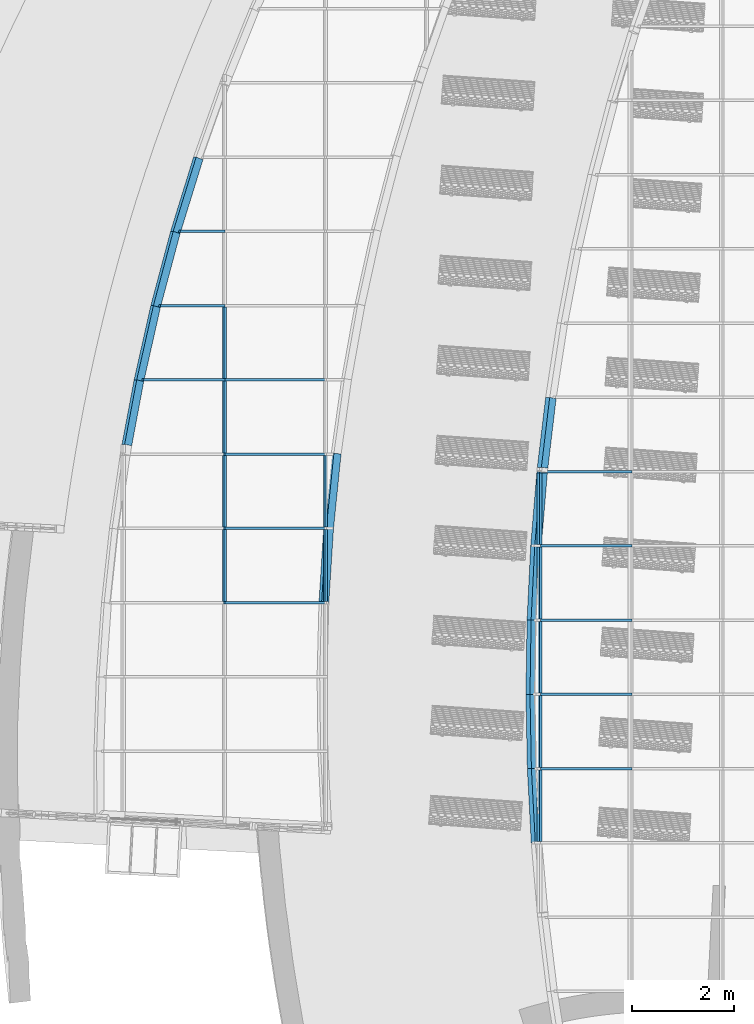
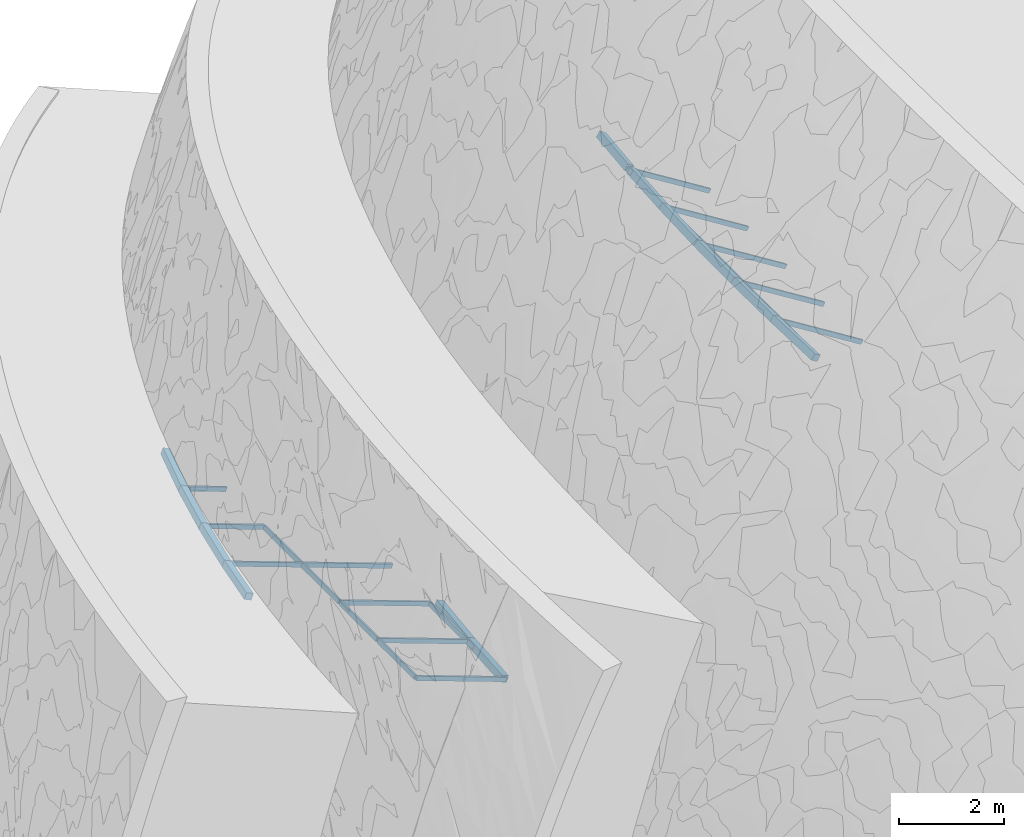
# One storey, part 11 of 82: 35 members, 2 elements without a shape of their own.
"""IFC2X3 building model written with IfcOpenShell, lengths in millimetres."""

from ifc_helpers import new_model, entity, si_unit, converted_unit, derived_unit, direction, frame, frame_2d, origin, origin_2d_with_axis, place, context, subcontext, project, spatial, rectangle, extrude, clip, halfspace, source, transform, mapped, material, type_object, type_shapes, element, aggregate, save


model = new_model("IFC2X3")

# Units and contexts
model_context = context("Model", 3, precision=0.01, world=origin(), true_north=direction((6.12303176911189e-17, 1.0)))
body_context = subcontext(model_context, "Body", "Model", "MODEL_VIEW")
ifc_project = project(units=[si_unit("LENGTHUNIT", "METRE", prefix="MILLI"), si_unit("AREAUNIT", "SQUARE_METRE"), si_unit("VOLUMEUNIT", "CUBIC_METRE"), converted_unit("PLANEANGLEUNIT", "DEGREE", entity("IfcRatioMeasure", 0.0174532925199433), si_unit("PLANEANGLEUNIT", "RADIAN"), dimensions=[0, 0, 0, 0, 0, 0, 0]), si_unit("MASSUNIT", "GRAM", prefix="KILO"), derived_unit("MASSDENSITYUNIT", [(si_unit("MASSUNIT", "GRAM", prefix="KILO"), 1), (si_unit("LENGTHUNIT", "METRE"), -3)]), si_unit("TIMEUNIT", "SECOND"), si_unit("FREQUENCYUNIT", "HERTZ"), si_unit("THERMODYNAMICTEMPERATUREUNIT", "DEGREE_CELSIUS"), derived_unit("THERMALTRANSMITTANCEUNIT", [(si_unit("MASSUNIT", "GRAM", prefix="KILO"), 1), (si_unit("THERMODYNAMICTEMPERATUREUNIT", "KELVIN"), -1), (si_unit("TIMEUNIT", "SECOND"), -3)]), derived_unit("VOLUMETRICFLOWRATEUNIT", [(si_unit("LENGTHUNIT", "METRE"), 3), (si_unit("TIMEUNIT", "SECOND"), -1)]), si_unit("ELECTRICCURRENTUNIT", "AMPERE"), si_unit("ELECTRICVOLTAGEUNIT", "VOLT"), si_unit("POWERUNIT", "WATT"), si_unit("FORCEUNIT", "NEWTON", prefix="KILO"), si_unit("ILLUMINANCEUNIT", "LUX"), si_unit("LUMINOUSFLUXUNIT", "LUMEN"), si_unit("LUMINOUSINTENSITYUNIT", "CANDELA"), derived_unit("USERDEFINED", [(si_unit("MASSUNIT", "GRAM", prefix="KILO"), -1), (si_unit("LENGTHUNIT", "METRE"), -2), (si_unit("TIMEUNIT", "SECOND"), 3), (si_unit("LUMINOUSFLUXUNIT", "LUMEN"), 1)]), derived_unit("LINEARVELOCITYUNIT", [(si_unit("LENGTHUNIT", "METRE"), 1), (si_unit("TIMEUNIT", "SECOND"), -1)]), si_unit("PRESSUREUNIT", "PASCAL"), derived_unit("USERDEFINED", [(si_unit("LENGTHUNIT", "METRE"), -2), (si_unit("MASSUNIT", "GRAM", prefix="KILO"), 1), (si_unit("TIMEUNIT", "SECOND"), -2)])], contexts=[model_context])

# Site, building, storey
site_placement = place(None, origin())
site = spatial("IfcSite", under=ifc_project, at=site_placement, Name="表面", CompositionType="ELEMENT")
building_placement = place(site_placement, origin())
building = spatial("IfcBuilding", under=site, at=building_placement, CompositionType="ELEMENT")
storey_placement = place(building_placement, origin())
storey = spatial("IfcBuildingStorey", under=building, at=storey_placement, Name="1F", CompositionType="ELEMENT", Elevation=0.0)

# Curtain wall, members
curtain_wall_type = type_object("IfcCurtainWallType", Name="幕墙系统:1450 x 2100mm", PredefinedType="NOTDEFINED")
curtain_wall_1_placement = place(storey_placement, origin())
curtain_wall_1 = element("IfcCurtainWall", 1, at=curtain_wall_1_placement, inside=storey, type_object=curtain_wall_type, Name="幕墙系统:1450 x 2100mm", ObjectType="幕墙系统:1450 x 2100mm")
ifc_material_1 = material(Name="金属 - 铝")
member_type_1 = type_object("IfcMemberType", Name="50 x 100mm", PredefinedType="MEMBER")
shared_shape_1 = source(origin(), body_context, "Body", "SweptSolid", [
    extrude(rectangle(XDim=100.0, YDim=50.0, at=origin_2d_with_axis()), frame((0.0, 0.0, -1400.0), z_axis=(0.0, 0.0, 1.0), x_axis=(0.0, -1.0, 0.0)), (0.0, 0.0, 1.0), 1400.0),
])
type_shapes(member_type_1, [shared_shape_1])
placement = place(building_placement, frame((0.0, 0.0, 9000.0)))
member_1_placement = place(placement, frame((-30604.5056245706, -13413.9031535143, 9820.01452635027), z_axis=(0.0, 1.0, 0.0), x_axis=(-0.848048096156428, 0.0, 0.529919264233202)))
member_1 = element("IfcMember", 2, at=member_1_placement, type_object=member_type_1, material=ifc_material_1, Name="矩形竖梃:50 x 100mm", ObjectType="50 x 100mm", context=body_context, shape_type="MappedRepresentation", body=[
    mapped(shared_shape_1, transform((0.0, 0.0, 0.0), scale=1.0)),
])
member_2_placement = place(placement, frame((-30604.5056245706, -14863.9031535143, 9820.01452635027), z_axis=(0.0, 1.0, 0.0), x_axis=(-0.848048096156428, 0.0, 0.529919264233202)))
member_2 = element("IfcMember", 3, at=member_2_placement, type_object=member_type_1, material=ifc_material_1, Name="矩形竖梃:50 x 100mm", ObjectType="50 x 100mm", context=body_context, shape_type="MappedRepresentation", body=[
    mapped(shared_shape_1, transform((0.0, 0.0, 0.0), scale=1.0)),
])
member_3_placement = place(placement, frame((-30604.5056245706, -16313.9031535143, 9820.01452635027), z_axis=(0.0, 1.0, 0.0), x_axis=(-0.848048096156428, 0.0, 0.529919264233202)))
member_3 = element("IfcMember", 4, at=member_3_placement, type_object=member_type_1, material=ifc_material_1, Name="矩形竖梃:50 x 100mm", ObjectType="50 x 100mm", context=body_context, shape_type="MappedRepresentation", body=[
    mapped(shared_shape_1, transform((0.0, 0.0, 0.0), scale=1.0)),
])
member_4_placement = place(placement, frame((-30604.5056245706, -17763.9031535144, 9820.01452635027), z_axis=(0.0, 1.0, 0.0), x_axis=(-0.848048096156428, 0.0, 0.529919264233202)))
member_4 = element("IfcMember", 5, at=member_4_placement, type_object=member_type_1, material=ifc_material_1, Name="矩形竖梃:50 x 100mm", ObjectType="50 x 100mm", context=body_context, shape_type="MappedRepresentation", body=[
    mapped(shared_shape_1, transform((0.0, 0.0, 0.0), scale=1.0)),
])
member_5_placement = place(placement, frame((-30604.5056245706, -19213.9031535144, 9820.01452635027), z_axis=(0.0, 1.0, 0.0), x_axis=(-0.848048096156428, 0.0, 0.529919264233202)))
member_5 = element("IfcMember", 6, at=member_5_placement, type_object=member_type_1, material=ifc_material_1, Name="矩形竖梃:50 x 100mm", ObjectType="50 x 100mm", context=body_context, shape_type="MappedRepresentation", body=[
    mapped(shared_shape_1, transform((0.0, 0.0, 0.0), scale=1.0)),
])

curtain_wall_2_placement = place(storey_placement, origin())
curtain_wall_2 = element("IfcCurtainWall", 7, at=curtain_wall_2_placement, inside=storey, type_object=curtain_wall_type, Name="幕墙系统:1450 x 2100mm", ObjectType="幕墙系统:1450 x 2100mm")
member_6_placement = place(placement, frame((-34783.270916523, -13071.8767198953, 980.343533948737), z_axis=(0.0, 1.0, 0.0), x_axis=(-0.93969262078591, 0.0, 0.342020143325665)))
member_6 = element("IfcMember", 8, at=member_6_placement, type_object=member_type_1, material=ifc_material_1, Name="矩形竖梃:50 x 100mm", ObjectType="50 x 100mm", context=body_context, shape_type="MappedRepresentation", body=[
    mapped(shared_shape_1, transform((0.0, 0.0, 0.0), scale=1.0)),
])
member_7_placement = place(placement, frame((-34783.270916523, -14521.8767198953, 980.343533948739), z_axis=(0.0, 1.0, 0.0), x_axis=(-0.93969262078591, 0.0, 0.342020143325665)))
member_7 = element("IfcMember", 9, at=member_7_placement, type_object=member_type_1, material=ifc_material_1, Name="矩形竖梃:50 x 100mm", ObjectType="50 x 100mm", context=body_context, shape_type="MappedRepresentation", body=[
    mapped(shared_shape_1, transform((0.0, 0.0, 0.0), scale=1.0)),
])
member_8_placement = place(placement, frame((-36756.6254201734, -10171.8767198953, 1698.58583493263), z_axis=(0.0, 1.0, 0.0), x_axis=(-0.93969262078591, 0.0, 0.342020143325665)))
member_8 = element("IfcMember", 10, at=member_8_placement, type_object=member_type_1, material=ifc_material_1, Name="矩形竖梃:50 x 100mm", ObjectType="50 x 100mm", context=body_context, shape_type="MappedRepresentation", body=[
    mapped(shared_shape_1, transform((0.0, 0.0, 0.0), scale=1.0)),
])
member_9_placement = place(placement, frame((-36756.6254201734, -11621.8767198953, 1698.58583493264), z_axis=(0.0, 1.0, 0.0), x_axis=(-0.93969262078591, 0.0, 0.342020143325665)))
member_9 = element("IfcMember", 11, at=member_9_placement, type_object=member_type_1, material=ifc_material_1, Name="矩形竖梃:50 x 100mm", ObjectType="50 x 100mm", context=body_context, shape_type="MappedRepresentation", body=[
    mapped(shared_shape_1, transform((0.0, 0.0, 0.0), scale=1.0)),
])
member_10_placement = place(placement, frame((-36756.6254201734, -13071.8767198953, 1698.58583493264), z_axis=(0.0, 1.0, 0.0), x_axis=(-0.93969262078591, 0.0, 0.342020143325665)))
member_10 = element("IfcMember", 12, at=member_10_placement, type_object=member_type_1, material=ifc_material_1, Name="矩形竖梃:50 x 100mm", ObjectType="50 x 100mm", context=body_context, shape_type="MappedRepresentation", body=[
    mapped(shared_shape_1, transform((0.0, 0.0, 0.0), scale=1.0)),
])
member_11_placement = place(placement, frame((-36756.6254201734, -14521.8767198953, 1698.58583493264), z_axis=(0.0, 1.0, 0.0), x_axis=(-0.93969262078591, 0.0, 0.342020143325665)))
member_11 = element("IfcMember", 13, at=member_11_placement, type_object=member_type_1, material=ifc_material_1, Name="矩形竖梃:50 x 100mm", ObjectType="50 x 100mm", context=body_context, shape_type="MappedRepresentation", body=[
    mapped(shared_shape_1, transform((0.0, 0.0, 0.0), scale=1.0)),
])

# Member
member_type_2 = type_object("IfcMemberType", Name="50 x 100mm", PredefinedType="MEMBER")
shared_shape_2 = source(origin(), body_context, "Body", "SweptSolid", [
    extrude(rectangle(XDim=100.0, YDim=50.0, at=origin_2d_with_axis()), frame((0.0, 0.0, -2100.0), z_axis=(0.0, 0.0, 1.0), x_axis=(0.0, -1.0, 0.0)), (0.0, 0.0, 1.0), 2100.0),
])
type_shapes(member_type_2, [shared_shape_2])
member_12_placement = place(placement, frame((-30604.5056245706, -14838.9031535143, 9820.01452635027), z_axis=(-0.848048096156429, 0.0, 0.529919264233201), x_axis=(0.0, -1.0, 0.0)))
member_12 = element("IfcMember", 14, at=member_12_placement, type_object=member_type_2, material=ifc_material_1, Name="矩形竖梃:50 x 100mm", ObjectType="50 x 100mm", context=body_context, shape_type="MappedRepresentation", body=[
    mapped(shared_shape_2, transform((0.0, 0.0, 0.0), scale=1.0)),
])

member_13_placement = place(placement, frame((-30604.5056245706, -16288.9031535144, 9820.01452635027), z_axis=(-0.848048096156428, 0.0, 0.529919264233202), x_axis=(0.0, -1.0, 0.0)))
member_13 = element("IfcMember", 15, at=member_13_placement, type_object=member_type_2, material=ifc_material_1, Name="矩形竖梃:50 x 100mm", ObjectType="50 x 100mm", context=body_context, shape_type="MappedRepresentation", body=[
    mapped(shared_shape_2, transform((0.0, 0.0, 0.0), scale=1.0)),
])

member_14_placement = place(placement, frame((-30604.5056245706, -17738.9031535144, 9820.01452635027), z_axis=(-0.848048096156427, 0.0, 0.529919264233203), x_axis=(0.0, -1.0, 0.0)))
member_14 = element("IfcMember", 16, at=member_14_placement, type_object=member_type_2, material=ifc_material_1, Name="矩形竖梃:50 x 100mm", ObjectType="50 x 100mm", context=body_context, shape_type="MappedRepresentation", body=[
    mapped(shared_shape_2, transform((0.0, 0.0, 0.0), scale=1.0)),
])

member_15_placement = place(placement, frame((-30604.5056245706, -19188.9031535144, 9820.01452635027), z_axis=(-0.848048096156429, 0.0, 0.529919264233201), x_axis=(0.0, -1.0, 0.0)))
member_15 = element("IfcMember", 17, at=member_15_placement, type_object=member_type_2, material=ifc_material_1, Name="矩形竖梃:50 x 100mm", ObjectType="50 x 100mm", context=body_context, shape_type="MappedRepresentation", body=[
    mapped(shared_shape_2, transform((0.0, 0.0, 0.0), scale=1.0)),
])

member_16_placement = place(placement, frame((-36756.6254201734, -11596.8767198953, 1698.58583493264), z_axis=(-0.939692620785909, 0.0, 0.342020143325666), x_axis=(0.0, -1.0, 0.0)))
member_16 = element("IfcMember", 18, at=member_16_placement, type_object=member_type_2, material=ifc_material_1, Name="矩形竖梃:50 x 100mm", ObjectType="50 x 100mm", context=body_context, shape_type="MappedRepresentation", body=[
    mapped(shared_shape_2, transform((0.0, 0.0, 0.0), scale=1.0)),
])

member_17_placement = place(placement, frame((-36756.6254201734, -13046.8767198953, 1698.58583493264), z_axis=(-0.939692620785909, 0.0, 0.342020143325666), x_axis=(0.0, -1.0, 0.0)))
member_17 = element("IfcMember", 19, at=member_17_placement, type_object=member_type_2, material=ifc_material_1, Name="矩形竖梃:50 x 100mm", ObjectType="50 x 100mm", context=body_context, shape_type="MappedRepresentation", body=[
    mapped(shared_shape_2, transform((0.0, 0.0, 0.0), scale=1.0)),
])

member_18_placement = place(placement, frame((-36756.6254201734, -14496.8767198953, 1698.58583493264), z_axis=(-0.93969262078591, 0.0, 0.342020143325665), x_axis=(0.0, -1.0, 0.0)))
member_18 = element("IfcMember", 20, at=member_18_placement, type_object=member_type_2, material=ifc_material_1, Name="矩形竖梃:50 x 100mm", ObjectType="50 x 100mm", context=body_context, shape_type="MappedRepresentation", body=[
    mapped(shared_shape_2, transform((0.0, 0.0, 0.0), scale=1.0)),
])

member_19_placement = place(placement, frame((-36756.6254201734, -15946.8767198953, 1698.58583493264), z_axis=(-0.939692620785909, 0.0, 0.342020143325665), x_axis=(0.0, -1.0, 0.0)))
member_19 = element("IfcMember", 21, at=member_19_placement, type_object=member_type_2, material=ifc_material_1, Name="矩形竖梃:50 x 100mm", ObjectType="50 x 100mm", context=body_context, shape_type="MappedRepresentation", body=[
    mapped(shared_shape_2, transform((0.0, 0.0, 0.0), scale=1.0)),
])

ifc_material_2 = material(Name="木质 - 木材")
member_type_3 = type_object("IfcMemberType", Name="200 x 150mm", PredefinedType="MEMBER")
shared_shape_3 = source(origin(), body_context, "Body", "Clipping", [
    clip(clip(extrude(rectangle(XDim=150.0, YDim=150.0, at=frame_2d((7.105427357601e-15, 0.0), x_axis=(1.0, 0.0))), frame((-75.0, 0.0, -1378.05709553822), z_axis=(0.0, 0.0, 1.0), x_axis=(0.0, -1.0, 0.0)), (0.0, 0.0, 1.0), 1378.05709553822), halfspace(frame((0.0, -304.799999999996, -1378.05709553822), z_axis=(-0.0100970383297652, 0.0, -0.999949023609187), x_axis=(-0.999949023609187, 0.0, 0.0100970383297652)), False)), halfspace(frame((0.0, -304.8, 0.0), z_axis=(-0.0196664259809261, 0.0, 0.999806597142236), x_axis=(-0.999806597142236, 0.0, -0.0196664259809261)), False)),
])
type_shapes(member_type_3, [shared_shape_3])
member_20_placement = place(placement, frame((-30442.0967019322, -11938.9031535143, 9718.53016811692), z_axis=(0.117853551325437, 0.990296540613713, -0.0736430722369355), x_axis=(-0.839819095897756, 0.13897036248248, 0.524777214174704)))
member_20 = element("IfcMember", 22, at=member_20_placement, type_object=member_type_3, material=ifc_material_2, Name="矩形竖梃:200 x 150mm", ObjectType="200 x 150mm", context=body_context, shape_type="MappedRepresentation", body=[
    mapped(shared_shape_3, transform((0.0, 0.0, 0.0), scale=1.0)),
])

member_type_4 = type_object("IfcMemberType", Name="200 x 150mm", PredefinedType="MEMBER")
shared_shape_4 = source(origin(), body_context, "Body", "Clipping", [
    clip(clip(extrude(rectangle(XDim=150.0, YDim=150.0, at=origin_2d_with_axis()), frame((-75.0, 0.0, -1456.98277119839), z_axis=(0.0, 0.0, 1.0), x_axis=(0.0, -1.0, 0.0)), (0.0, 0.0, 1.0), 1456.98277119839), halfspace(frame((0.0, -304.8, -1456.9827711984), z_axis=(-0.0200655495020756, 0.0, -0.99979866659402), x_axis=(-0.99979866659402, 0.0, 0.0200655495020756)), False)), halfspace(frame((0.0, -304.8, 0.0), z_axis=(-0.0106416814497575, 0.0, 0.999943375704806), x_axis=(-0.999943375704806, 0.0, -0.0106416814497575)), False)),
])
type_shapes(member_type_4, [shared_shape_4])
member_21_placement = place(placement, frame((-30613.1729481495, -13388.9031535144, 9825.43047121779), z_axis=(0.0829280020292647, 0.995207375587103, -0.0518191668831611), x_axis=(-0.843983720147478, 0.0977869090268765, 0.527379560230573)))
member_21 = element("IfcMember", 23, at=member_21_placement, type_object=member_type_4, material=ifc_material_2, Name="矩形竖梃:200 x 150mm", ObjectType="200 x 150mm", context=body_context, shape_type="MappedRepresentation", body=[
    mapped(shared_shape_4, transform((0.0, 0.0, 0.0), scale=1.0)),
])

member_type_5 = type_object("IfcMemberType", Name="200 x 150mm", PredefinedType="MEMBER")
shared_shape_5 = source(origin(), body_context, "Body", "Clipping", [
    clip(clip(extrude(rectangle(XDim=150.0, YDim=150.0, at=frame_2d((7.105427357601e-15, 0.0), x_axis=(1.0, 0.0))), frame((-75.0, 0.0, -1452.42629505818), z_axis=(0.0, 0.0, 1.0), x_axis=(0.0, -1.0, 0.0)), (0.0, 0.0, 1.0), 1452.42629505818), halfspace(frame((0.0, -304.800000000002, -1452.42629505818), z_axis=(-0.0200189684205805, 0.0, -0.999799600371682), x_axis=(-0.999799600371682, 0.0, 0.0200189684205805)), False)), halfspace(frame((0.0, -304.8, 0.0), z_axis=(-0.0200655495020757, 0.0, 0.99979866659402), x_axis=(-0.99979866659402, 0.0, -0.0200655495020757)), False)),
])
type_shapes(member_type_5, [shared_shape_5])
member_22_placement = place(placement, frame((-30733.997618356, -14838.9031535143, 9900.93010458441), z_axis=(0.0489980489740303, 0.998329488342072, -0.0306173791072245), x_axis=(-0.846631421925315, 0.0577774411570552, 0.52903402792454)))
member_22 = element("IfcMember", 24, at=member_22_placement, type_object=member_type_5, material=ifc_material_2, Name="矩形竖梃:200 x 150mm", ObjectType="200 x 150mm", context=body_context, shape_type="MappedRepresentation", body=[
    mapped(shared_shape_5, transform((0.0, 0.0, 0.0), scale=1.0)),
])

member_type_6 = type_object("IfcMemberType", Name="200 x 150mm", PredefinedType="MEMBER")
shared_shape_6 = source(origin(), body_context, "Body", "Clipping", [
    clip(clip(extrude(rectangle(XDim=150.0, YDim=150.0, at=origin_2d_with_axis()), frame((-75.0, 0.0, -1450.22894031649), z_axis=(0.0, 0.0, 1.0), x_axis=(0.0, -1.0, 0.0)), (0.0, 0.0, 1.0), 1450.22894031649), halfspace(frame((0.0, -304.8, -1450.22894031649), z_axis=(-0.0200047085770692, 0.0, -0.999799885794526), x_axis=(-0.999799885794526, 0.0, 0.0200047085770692)), False)), halfspace(frame((0.0, -304.8, 0.0), z_axis=(-0.0200189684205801, 0.0, 0.999799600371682), x_axis=(-0.999799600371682, 0.0, -0.0200189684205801)), False)),
])
type_shapes(member_type_6, [shared_shape_6])
member_23_placement = place(placement, frame((-30805.1636730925, -16288.9031535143, 9945.39959108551), z_axis=(0.015068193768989, 0.999842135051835, -0.00941565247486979), x_axis=(-0.847914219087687, 0.0177680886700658, 0.529835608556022)))
member_23 = element("IfcMember", 25, at=member_23_placement, type_object=member_type_6, material=ifc_material_2, Name="矩形竖梃:200 x 150mm", ObjectType="200 x 150mm", context=body_context, shape_type="MappedRepresentation", body=[
    mapped(shared_shape_6, transform((0.0, 0.0, 0.0), scale=1.0)),
])

member_type_7 = type_object("IfcMemberType", Name="200 x 150mm", PredefinedType="MEMBER")
shared_shape_7 = source(origin(), body_context, "Body", "Clipping", [
    clip(clip(extrude(rectangle(XDim=150.0, YDim=150.0, at=origin_2d_with_axis()), frame((-75.0, 0.0, -1450.35877048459), z_axis=(0.0, 0.0, 1.0), x_axis=(0.0, -1.0, 0.0)), (0.0, 0.0, 1.0), 1450.35877048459), halfspace(frame((0.0, -304.800000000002, -1450.35877048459), z_axis=(-0.0200225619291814, 0.0, -0.999799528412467), x_axis=(-0.999799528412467, 0.0, 0.0200225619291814)), False)), halfspace(frame((0.0, -304.8, 0.0), z_axis=(-0.0200047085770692, 0.0, 0.999799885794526), x_axis=(-0.999799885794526, 0.0, -0.0200047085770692)), False)),
])
type_shapes(member_type_7, [shared_shape_7])
member_24_placement = place(placement, frame((-30827.0160037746, -17738.9031535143, 9959.05444279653), z_axis=(-0.0188616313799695, 0.99975263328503, 0.0117860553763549), x_axis=(-0.847838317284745, -0.0222412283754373, 0.529788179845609)))
member_24 = element("IfcMember", 26, at=member_24_placement, type_object=member_type_7, material=ifc_material_2, Name="矩形竖梃:200 x 150mm", ObjectType="200 x 150mm", context=body_context, shape_type="MappedRepresentation", body=[
    mapped(shared_shape_7, transform((0.0, 0.0, 0.0), scale=1.0)),
])

member_type_8 = type_object("IfcMemberType", Name="200 x 150mm", PredefinedType="MEMBER")
shared_shape_8 = source(origin(), body_context, "Body", "Clipping", [
    clip(clip(extrude(rectangle(XDim=150.0, YDim=150.0, at=frame_2d((-2.8421709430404e-14, 0.0), x_axis=(1.0, 0.0))), frame((-75.0, 0.0, -1452.81766510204), z_axis=(0.0, 0.0, 1.0), x_axis=(0.0, -1.0, 0.0)), (0.0, 0.0, 1.0), 1452.81766510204), halfspace(frame((0.0, -304.8, -1452.81766510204), z_axis=(-0.0195393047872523, 0.0, -0.999809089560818), x_axis=(-0.999809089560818, 0.0, 0.0195393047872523)), False)), halfspace(frame((0.0, -304.8, 0.0), z_axis=(-0.0200225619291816, 0.0, 0.999799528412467), x_axis=(-0.999799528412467, 0.0, -0.0200225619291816)), False)),
])
type_shapes(member_type_8, [shared_shape_8])
member_25_placement = place(placement, frame((-30799.659871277, -19188.9031535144, 9941.96043401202), z_axis=(-0.052791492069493, 0.998060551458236, 0.0329877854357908), x_axis=(-0.846403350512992, -0.0622505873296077, 0.528891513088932)))
member_25 = element("IfcMember", 27, at=member_25_placement, type_object=member_type_8, material=ifc_material_2, Name="矩形竖梃:200 x 150mm", ObjectType="200 x 150mm", context=body_context, shape_type="MappedRepresentation", body=[
    mapped(shared_shape_8, transform((0.0, 0.0, 0.0), scale=1.0)),
])

member_type_9 = type_object("IfcMemberType", Name="50 x 100mm", PredefinedType="MEMBER")
shared_shape_9 = source(origin(), body_context, "Body", "SweptSolid", [
    extrude(rectangle(XDim=100.0, YDim=50.0, at=origin_2d_with_axis()), frame((0.0, 0.0, -2125.0), z_axis=(0.0, 0.0, 1.0), x_axis=(0.0, -1.0, 0.0)), (0.0, 0.0, 1.0), 2125.0),
])
type_shapes(member_type_9, [shared_shape_9])
member_26_placement = place(placement, frame((-30625.7068269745, -13388.9031535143, 9833.2625079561), z_axis=(-0.848048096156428, 0.0, 0.529919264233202), x_axis=(0.0, -1.0, 0.0)))
member_26 = element("IfcMember", 28, at=member_26_placement, type_object=member_type_9, material=ifc_material_1, Name="矩形竖梃:50 x 100mm", ObjectType="50 x 100mm", context=body_context, shape_type="MappedRepresentation", body=[
    mapped(shared_shape_9, transform((0.0, 0.0, 0.0), scale=1.0)),
])

aggregate(curtain_wall_1, [member_20, member_21, member_22, member_23, member_24, member_25, member_1, member_2, member_3, member_4, member_5, member_26, member_12, member_13, member_14, member_15])

member_type_10 = type_object("IfcMemberType", Name="200 x 150mm", PredefinedType="MEMBER")
shared_shape_10 = source(origin(), body_context, "Body", "Clipping", [
    clip(clip(extrude(rectangle(XDim=150.0, YDim=150.0, at=frame_2d((-7.105427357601e-15, -1.4210854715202e-14), x_axis=(1.0, 0.0))), frame((-75.0, 0.0, -1461.48275121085), z_axis=(0.0, 0.0, 1.0), x_axis=(0.0, -1.0, 0.0)), (0.0, 0.0, 1.0), 1464.50294692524), halfspace(frame((0.0, 304.800000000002, -1458.44930841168), z_axis=(0.0202188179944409, 0.0, -0.999795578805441), x_axis=(0.999795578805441, 0.0, 0.0202188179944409)), False)), halfspace(frame((0.0, 304.8, 0.0), z_axis=(0.0201305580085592, 0.0, 0.999797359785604), x_axis=(0.999797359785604, 0.0, -0.0201305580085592)), False)),
])
type_shapes(member_type_10, [shared_shape_10])
member_27_placement = place(placement, frame((-34649.5868559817, -14496.8767198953, 931.686515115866), z_axis=(-0.101003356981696, -0.994206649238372, 0.0367622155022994), x_axis=(0.934248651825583, -0.10748552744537, -0.340038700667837)))
member_27 = element("IfcMember", 29, at=member_27_placement, type_object=member_type_10, material=ifc_material_2, Name="矩形竖梃:200 x 150mm", ObjectType="200 x 150mm", context=body_context, shape_type="MappedRepresentation", body=[
    mapped(shared_shape_10, transform((0.0, 0.0, 0.0), scale=1.0)),
])

member_type_11 = type_object("IfcMemberType", Name="200 x 150mm", PredefinedType="MEMBER")
shared_shape_11 = source(origin(), body_context, "Body", "Clipping", [
    clip(clip(extrude(rectangle(XDim=150.0, YDim=150.0, at=frame_2d((0.0, -1.4210854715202e-14), x_axis=(1.0, 0.0))), frame((-75.0, 0.0, -1456.32286051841), z_axis=(0.0, 0.0, 1.0), x_axis=(0.0, -1.0, 0.0)), (0.0, 0.0, 1.0), 1459.33485901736), halfspace(frame((0.0, 304.8, -1453.30266480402), z_axis=(0.0201305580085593, 0.0, -0.999797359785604), x_axis=(0.999797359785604, 0.0, 0.0201305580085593)), False)), halfspace(frame((0.0, 304.8, 0.0), z_axis=(0.0200759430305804, 0.0, 0.999798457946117), x_axis=(0.999798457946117, 0.0, -0.0200759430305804)), False)),
])
type_shapes(member_type_11, [shared_shape_11])
member_28_placement = place(placement, frame((-34741.6030406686, -15946.8767198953, 965.177667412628), z_axis=(-0.0633152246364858, -0.997727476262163, 0.0230448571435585), x_axis=(0.937557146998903, -0.0673786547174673, -0.341242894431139)))
member_28 = element("IfcMember", 30, at=member_28_placement, type_object=member_type_11, material=ifc_material_2, Name="矩形竖梃:200 x 150mm", ObjectType="200 x 150mm", context=body_context, shape_type="MappedRepresentation", body=[
    mapped(shared_shape_11, transform((0.0, 0.0, 0.0), scale=1.0)),
])

member_type_12 = type_object("IfcMemberType", Name="200 x 150mm", PredefinedType="MEMBER")
shared_shape_12 = source(origin(), body_context, "Body", "Clipping", [
    clip(clip(extrude(rectangle(XDim=150.0, YDim=150.0, at=frame_2d((0.0, 4.9737991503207e-14), x_axis=(1.0, 0.0))), frame((-75.0, 0.0, -1526.46703627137), z_axis=(0.0, 0.0, 1.0), x_axis=(0.0, -1.0, 0.0)), (0.0, 0.0, 1.0), 1526.46703627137), halfspace(frame((0.0, -304.8, -1526.46703627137), z_axis=(-0.0208129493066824, 0.0, -0.999783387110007), x_axis=(-0.999783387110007, 0.0, 0.0208129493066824)), False)), halfspace(frame((0.0, -304.8, 0.0), z_axis=(-0.0211026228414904, 0.0, 0.999777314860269), x_axis=(-0.999777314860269, 0.0, -0.0211026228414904)), False)),
])
type_shapes(member_type_12, [shared_shape_12])
member_29_placement = place(placement, frame((-37332.9327571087, -7246.8767198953, 1908.34455136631), z_axis=(0.293687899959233, 0.949905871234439, -0.106893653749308), x_axis=(-0.892619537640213, 0.312536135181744, 0.324886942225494)))
member_29 = element("IfcMember", 31, at=member_29_placement, type_object=member_type_12, material=ifc_material_2, Name="矩形竖梃:200 x 150mm", ObjectType="200 x 150mm", context=body_context, shape_type="MappedRepresentation", body=[
    mapped(shared_shape_12, transform((0.0, 0.0, 0.0), scale=1.0)),
])

member_type_13 = type_object("IfcMemberType", Name="200 x 150mm", PredefinedType="MEMBER")
shared_shape_13 = source(origin(), body_context, "Body", "Clipping", [
    clip(clip(extrude(rectangle(XDim=150.0, YDim=150.0, at=frame_2d((-1.4210854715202e-14, 4.9737991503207e-14), x_axis=(1.0, 0.0))), frame((-75.0, 0.0, -1507.13598896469), z_axis=(0.0, 0.0, 1.0), x_axis=(0.0, -1.0, 0.0)), (0.0, 0.0, 1.0), 1507.13598896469), halfspace(frame((0.0, -304.800000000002, -1507.13598896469), z_axis=(-0.0205697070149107, 0.0, -0.999788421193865), x_axis=(-0.999788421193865, 0.0, 0.0205697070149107)), False)), halfspace(frame((0.0, -304.8, 0.0), z_axis=(-0.0208129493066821, 0.0, 0.999783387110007), x_axis=(-0.999783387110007, 0.0, -0.0208129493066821)), False)),
])
type_shapes(member_type_13, [shared_shape_13])
member_30_placement = place(placement, frame((-37781.2376553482, -8696.8767198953, 2071.51419020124), z_axis=(0.256285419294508, 0.962089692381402, -0.0932802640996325), x_axis=(-0.904068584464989, 0.272733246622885, 0.329054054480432)))
member_30 = element("IfcMember", 32, at=member_30_placement, type_object=member_type_13, material=ifc_material_2, Name="矩形竖梃:200 x 150mm", ObjectType="200 x 150mm", context=body_context, shape_type="MappedRepresentation", body=[
    mapped(shared_shape_13, transform((0.0, 0.0, 0.0), scale=1.0)),
])

member_type_14 = type_object("IfcMemberType", Name="200 x 150mm", PredefinedType="MEMBER")
shared_shape_14 = source(origin(), body_context, "Body", "Clipping", [
    clip(clip(extrude(rectangle(XDim=150.0, YDim=150.0, at=frame_2d((0.0, 3.5527136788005e-14), x_axis=(1.0, 0.0))), frame((-75.0, 0.0, -1491.01290523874), z_axis=(0.0, 0.0, 1.0), x_axis=(0.0, -1.0, 0.0)), (0.0, 0.0, 1.0), 1491.01290523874), halfspace(frame((0.0, -304.799999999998, -1491.01290523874), z_axis=(-0.0190370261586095, 0.0, -0.999818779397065), x_axis=(-0.999818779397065, 0.0, 0.0190370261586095)), False)), halfspace(frame((0.0, -304.8, 0.0), z_axis=(-0.0205697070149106, 0.0, 0.999788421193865), x_axis=(-0.999788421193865, 0.0, -0.0205697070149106)), False)),
])
type_shapes(member_type_14, [shared_shape_14])
member_31_placement = place(placement, frame((-38167.4946342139, -10146.8767198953, 2212.10023328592), z_axis=(0.218883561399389, 0.97249325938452, -0.0796671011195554), x_axis=(-0.913844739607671, 0.232931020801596, 0.332612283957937)))
member_31 = element("IfcMember", 33, at=member_31_placement, type_object=member_type_14, material=ifc_material_2, Name="矩形竖梃:200 x 150mm", ObjectType="200 x 150mm", context=body_context, shape_type="MappedRepresentation", body=[
    mapped(shared_shape_14, transform((0.0, 0.0, 0.0), scale=1.0)),
])

member_type_15 = type_object("IfcMemberType", Name="200 x 150mm", PredefinedType="MEMBER")
shared_shape_15 = source(origin(), body_context, "Body", "Clipping", [
    clip(clip(extrude(rectangle(XDim=150.0, YDim=150.0, at=frame_2d((-2.8421709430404e-14, 1.4210854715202e-14), x_axis=(1.0, 0.0))), frame((-75.0, 0.0, -1283.73576293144), z_axis=(0.0, 0.0, 1.0), x_axis=(0.0, -1.0, 0.0)), (0.0, 0.0, 1.0), 1283.73576293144), halfspace(frame((0.0, -304.8, -1283.73576293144), z_axis=(-0.0101395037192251, 0.0, -0.999948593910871), x_axis=(-0.999948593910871, 0.0, 0.0101395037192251)), False)), halfspace(frame((0.0, -304.8, 0.0), z_axis=(-0.0190370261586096, 0.0, 0.999818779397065), x_axis=(-0.999818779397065, 0.0, -0.0190370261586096)), False)),
])
type_shapes(member_type_15, [shared_shape_15])
member_32_placement = place(placement, frame((-38493.852849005, -11596.8767198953, 2330.88490917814), z_axis=(0.183937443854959, 0.98065540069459, -0.0669477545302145), x_axis=(-0.921514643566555, 0.195742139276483, 0.335403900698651)))
member_32 = element("IfcMember", 34, at=member_32_placement, type_object=member_type_15, material=ifc_material_2, Name="矩形竖梃:200 x 150mm", ObjectType="200 x 150mm", context=body_context, shape_type="MappedRepresentation", body=[
    mapped(shared_shape_15, transform((0.0, 0.0, 0.0), scale=1.0)),
])

member_type_16 = type_object("IfcMemberType", Name="50 x 100mm", PredefinedType="MEMBER")
shared_shape_16 = source(origin(), body_context, "Body", "Clipping", [
    clip(extrude(rectangle(XDim=100.0, YDim=50.0, at=origin_2d_with_axis()), frame((0.0, 0.0, -1090.36956607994), z_axis=(0.0, 0.0, 1.0), x_axis=(0.0, -1.0, 0.0)), (0.0, 0.0, 1.0), 940.68463315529), halfspace(frame((-1403.11957972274, 75.0, -619.561988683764), z_axis=(-0.312536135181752, 0.0, 0.949905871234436), x_axis=(0.949905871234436, 0.0, 0.312536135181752)), False)),
])
type_shapes(member_type_16, [shared_shape_16])
member_33_placement = place(placement, frame((-37781.2376553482, -8696.8767198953, 2071.51419020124), z_axis=(-0.93969262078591, 0.0, 0.342020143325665), x_axis=(0.0, -1.0, 0.0)))
member_33 = element("IfcMember", 35, at=member_33_placement, type_object=member_type_16, material=ifc_material_1, Name="矩形竖梃:50 x 100mm", ObjectType="50 x 100mm", context=body_context, shape_type="MappedRepresentation", body=[
    mapped(shared_shape_16, transform((0.0, 0.0, 0.0), scale=1.0)),
])

member_type_17 = type_object("IfcMemberType", Name="50 x 100mm", PredefinedType="MEMBER")
shared_shape_17 = source(origin(), body_context, "Body", "Clipping", [
    clip(extrude(rectangle(XDim=100.0, YDim=50.0, at=origin_2d_with_axis()), frame((0.0, 0.0, -1501.41565745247), z_axis=(0.0, 0.0, 1.0), x_axis=(0.0, -1.0, 0.0)), (0.0, 0.0, 1.0), 1352.59203947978), halfspace(frame((-1409.09001300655, 75.0, -555.35954522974), z_axis=(-0.272733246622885, 0.0, 0.962089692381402), x_axis=(0.962089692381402, 0.0, 0.272733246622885)), False)),
])
type_shapes(member_type_17, [shared_shape_17])
member_34_placement = place(placement, frame((-38167.4946342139, -10146.8767198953, 2212.10023328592), z_axis=(-0.93969262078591, 0.0, 0.342020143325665), x_axis=(0.0, -1.0, 0.0)))
member_34 = element("IfcMember", 36, at=member_34_placement, type_object=member_type_17, material=ifc_material_1, Name="矩形竖梃:50 x 100mm", ObjectType="50 x 100mm", context=body_context, shape_type="MappedRepresentation", body=[
    mapped(shared_shape_17, transform((0.0, 0.0, 0.0), scale=1.0)),
])

member_type_18 = type_object("IfcMemberType", Name="50 x 100mm", PredefinedType="MEMBER")
shared_shape_18 = source(origin(), body_context, "Body", "Clipping", [
    clip(extrude(rectangle(XDim=100.0, YDim=50.0, at=origin_2d_with_axis()), frame((0.0, 0.0, -1848.71881549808), z_axis=(0.0, 0.0, 1.0), x_axis=(0.0, -1.0, 0.0)), (0.0, 0.0, 1.0), 1700.46408664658), halfspace(frame((-1415.06034687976, 75.0, -493.177146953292), z_axis=(-0.232931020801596, 0.0, 0.97249325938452), x_axis=(0.97249325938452, 0.0, 0.232931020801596)), False)),
])
type_shapes(member_type_18, [shared_shape_18])
member_35_placement = place(placement, frame((-38493.852849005, -11596.8767198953, 2330.88490917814), z_axis=(-0.93969262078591, 0.0, 0.342020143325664), x_axis=(0.0, -1.0, 0.0)))
member_35 = element("IfcMember", 37, at=member_35_placement, type_object=member_type_18, material=ifc_material_1, Name="矩形竖梃:50 x 100mm", ObjectType="50 x 100mm", context=body_context, shape_type="MappedRepresentation", body=[
    mapped(shared_shape_18, transform((0.0, 0.0, 0.0), scale=1.0)),
])

aggregate(curtain_wall_2, [member_27, member_28, member_29, member_30, member_31, member_32, member_6, member_7, member_8, member_9, member_10, member_11, member_33, member_34, member_35, member_16, member_17, member_18, member_19])

save(model, "model.ifc")
